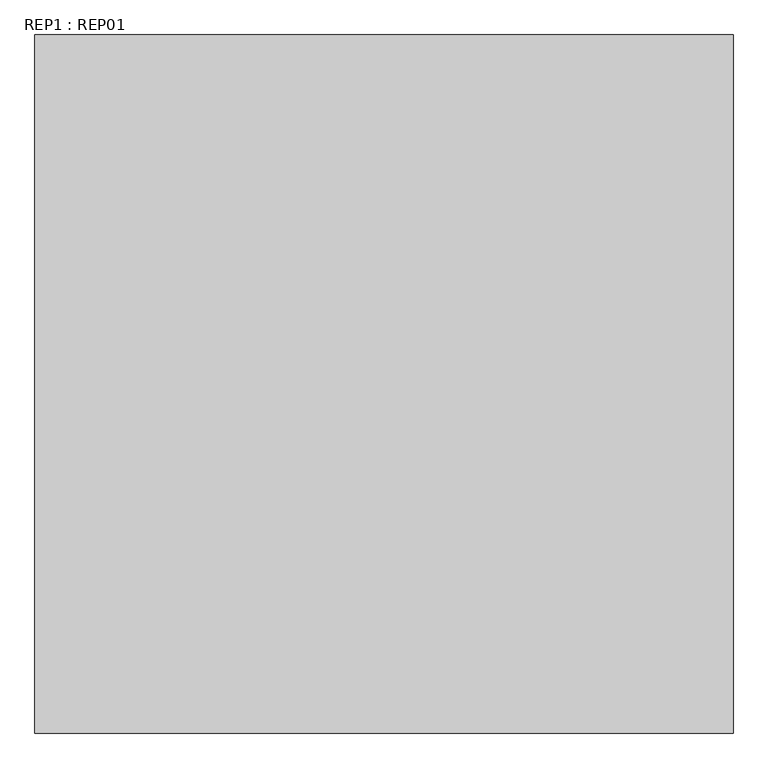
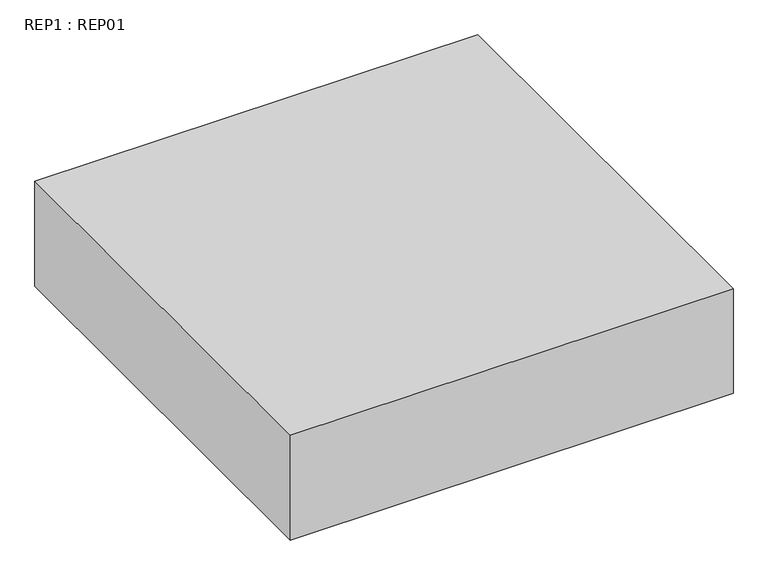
"""IFC4 building model written with IfcOpenShell, lengths in millimetres: proxy geometry, REP1 : REP01."""

from ifc_helpers import new_model, si_unit, origin, origin_with_axes, place, context, project, spatial, polyline, outline, extrude, source, transform, mapped, element, save


def rep1_rep01_36ff25d1(model_context):
    return source(origin(), model_context, "Body", "SweptSolid", [
        extrude(outline(polyline([(-9839.3863773, 5732.0711788), (-9839.3863773, 4732.0711788), (-10839.3863773, 4732.0711788), (-10839.3863773, 5732.0711788), (-9839.3863773, 5732.0711788)])), origin_with_axes(), (0.0, 0.0, 1.0), 250.0),
    ])


if __name__ == "__main__":
    model = new_model("IFC4")
    model_context = context("Model", 3, world=origin())
    ifc_project = project(units=[si_unit("LENGTHUNIT", "METRE", prefix="MILLI")], contexts=[model_context])
    site = spatial("IfcSite", under=ifc_project)
    building = spatial("IfcBuilding", under=site)
    placement = place(None, origin())
    rep1_rep01_shape = rep1_rep01_36ff25d1(model_context)
    element("IfcBuildingElementProxy", 1, Name="REP1 : REP01", ObjectType="REP1 : REP01", at=placement, inside=building, context=model_context, shape_type="MappedRepresentation", body=[
        mapped(rep1_rep01_shape, transform((0.0, 0.0, 0.0), x_axis=(1.0, 0.0, 0.0), y_axis=(0.0, 1.0, 0.0), z_axis=(0.0, 0.0, 1.0))),
    ])
    save(model, "model.ifc")
